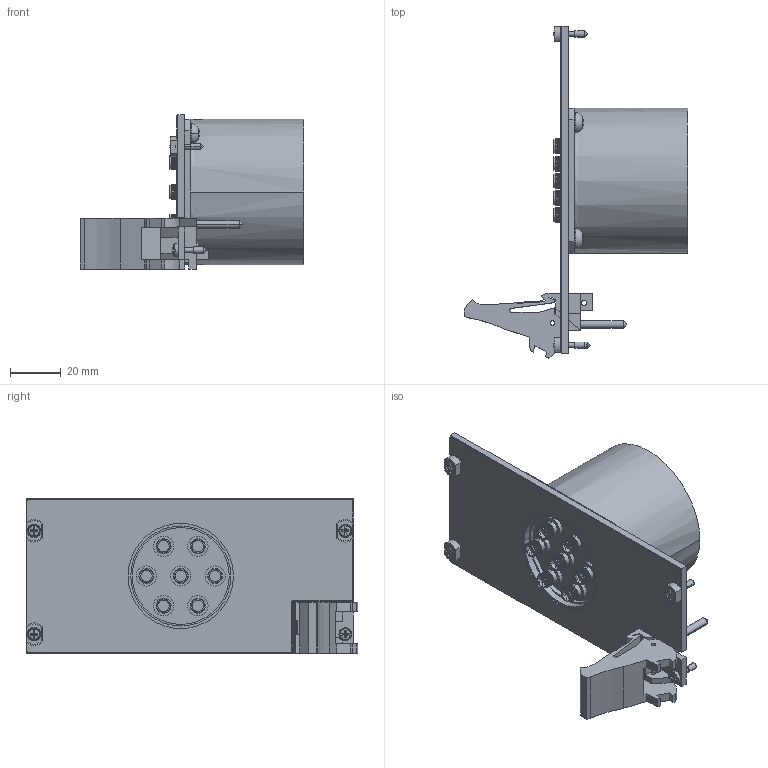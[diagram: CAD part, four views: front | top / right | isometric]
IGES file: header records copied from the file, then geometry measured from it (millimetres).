
Start section:  PTC IGES file: cu_pxi-2797.igs
Global section: file name: cu_pxi-2797.igs; native system: Pro/ENGINEER by Parametric Technology Corporation; preprocessor: 2011490; author: jjorden; organization: Unknown; date: 20130108.155058; units: inch
Bounding box: 87.81 x 130.5 x 60.66 mm (x, y, z)
Surface area: 34567 mm2 (no closed solid volume)
Topology: 0 solids, 0 shells, 1017 faces, 4648 edges, 4624 vertices
Faces by surface type: revolution 563, bspline 454
